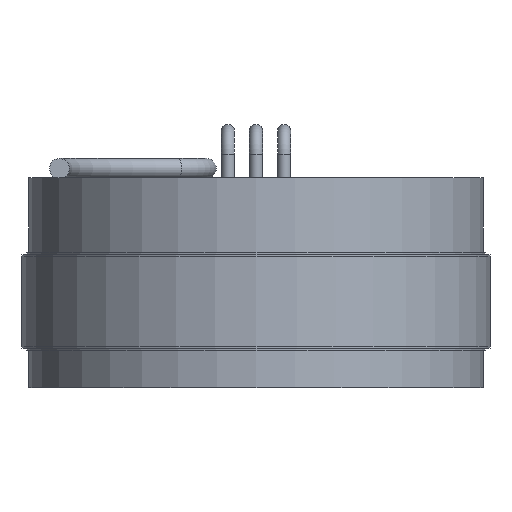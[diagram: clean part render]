
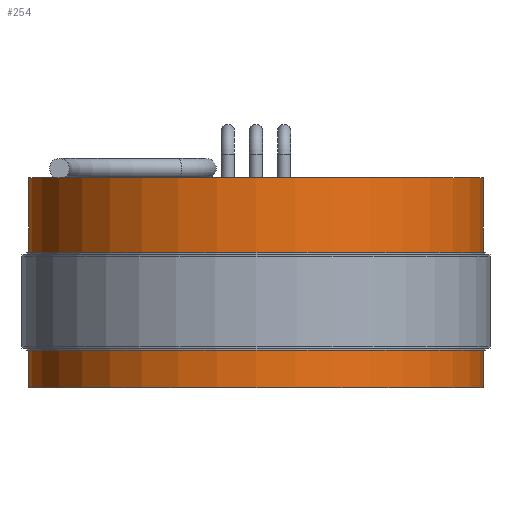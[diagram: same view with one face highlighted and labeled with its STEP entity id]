
A CAD part, front view. The second image highlights one B-rep face of the part: STEP entity #254.
In plain terms, the highlighted cylindrical face has radius 30.861 mm (diameter 61.722 mm), a full revolution.
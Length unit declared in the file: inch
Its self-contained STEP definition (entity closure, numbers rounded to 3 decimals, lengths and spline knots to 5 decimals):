
#86 = ORIENTED_EDGE ( 'NONE', *, *, #1288, .F. ) ;
#93 = AXIS2_PLACEMENT_3D ( 'NONE', #501, #808, #1252 ) ;
#225 = CYLINDRICAL_SURFACE ( 'NONE', #857, 1.215 ) ;
#254 = ADVANCED_FACE ( 'NONE', ( #1335, #767 ), #225, .T. ) ;
#292 = DIRECTION ( 'NONE',  ( 0., 0., 1. ) ) ;
#501 = CARTESIAN_POINT ( 'NONE',  ( 0., 0., 0.66 ) ) ;
#603 = VERTEX_POINT ( 'NONE', #1207 ) ;
#662 = CARTESIAN_POINT ( 'NONE',  ( 1.215, 0., -0.46 ) ) ;
#667 = CIRCLE ( 'NONE', #93, 1.215 ) ;
#767 = FACE_OUTER_BOUND ( 'NONE', #843, .T. ) ;
#768 = DIRECTION ( 'NONE',  ( 1., 0., 0. ) ) ;
#800 = EDGE_CURVE ( 'NONE', #807, #807, #1072, .T. ) ;
#807 = VERTEX_POINT ( 'NONE', #662 ) ;
#808 = DIRECTION ( 'NONE',  ( 0., 0., 1. ) ) ;
#836 = CARTESIAN_POINT ( 'NONE',  ( 0., 0., -0.46 ) ) ;
#843 = EDGE_LOOP ( 'NONE', ( #86 ) ) ;
#857 = AXIS2_PLACEMENT_3D ( 'NONE', #1201, #987, #768 ) ;
#922 = EDGE_LOOP ( 'NONE', ( #1172 ) ) ;
#987 = DIRECTION ( 'NONE',  ( 0., 0., 1. ) ) ;
#1063 = DIRECTION ( 'NONE',  ( 1., 0., 0. ) ) ;
#1072 = CIRCLE ( 'NONE', #1355, 1.215 ) ;
#1172 = ORIENTED_EDGE ( 'NONE', *, *, #800, .T. ) ;
#1201 = CARTESIAN_POINT ( 'NONE',  ( 0., 0., -0.46 ) ) ;
#1207 = CARTESIAN_POINT ( 'NONE',  ( 1.215, 0., 0.66 ) ) ;
#1252 = DIRECTION ( 'NONE',  ( 1., 0., 0. ) ) ;
#1288 = EDGE_CURVE ( 'NONE', #603, #603, #667, .T. ) ;
#1335 = FACE_OUTER_BOUND ( 'NONE', #922, .T. ) ;
#1355 = AXIS2_PLACEMENT_3D ( 'NONE', #836, #292, #1063 ) ;
